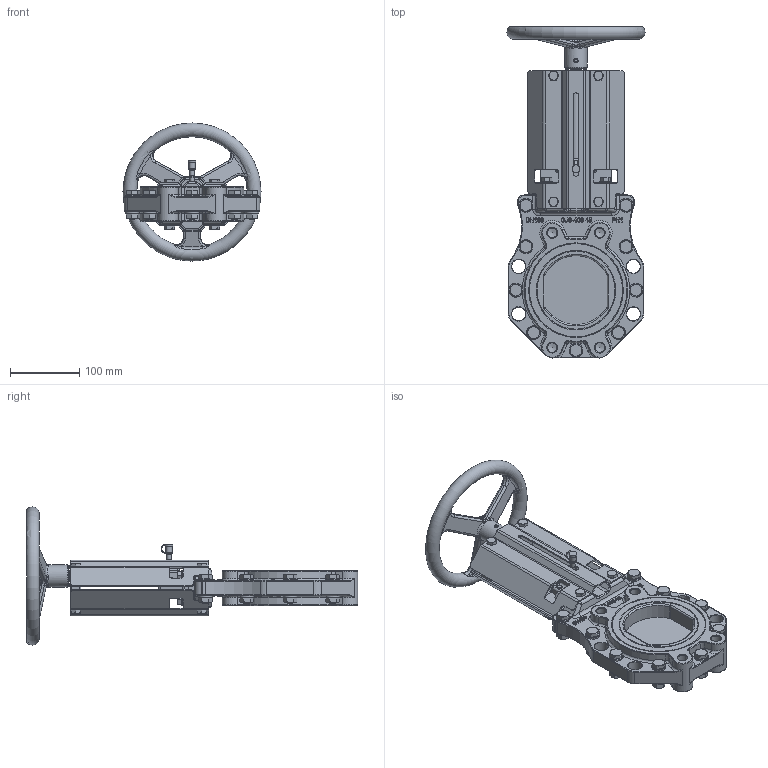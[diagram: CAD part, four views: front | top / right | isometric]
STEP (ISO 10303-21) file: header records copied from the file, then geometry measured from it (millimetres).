
FILE_DESCRIPTION(/* description */ (''),/* implementation_level */ '2;1');
FILE_NAME(/* name */ 'Non-rising stem knife gate valve with handwheel DN100.stp',/* time_stamp */ '2025-04-02T09:42:29+08:00',/* author */ (''),/* organization */ (''),/* preprocessor_version */ 'ST-DEVELOPER v15',/* originating_system */ 'SIEMENS PLM Software NX 10.0',/* authorisation */ '');
FILE_SCHEMA (('AP203_CONFIGURATION_CONTROLLED_3D_DESIGN_OF_MECHANICAL_PARTS_AND_ASSEMBLIES_MIM_LF { 1 0 10303 403 2 1 2}'));
Products named in the file (1): Admi271CEB492f0p
Bounding box: 200 x 480.65 x 200 mm (x, y, z)
Volume: 1833976 mm3; surface area: 396100.7 mm2
Topology: 1 solids, 21 shells, 2596 faces, 6431 edges, 4004 vertices
Faces by surface type: plane 1046, cylinder 562, bspline 354, extrusion 223, cone 210, torus 153, sphere 48
Full cylindrical faces by diameter (mm): 6 x1, 6.2 x1, 6.647 x4, 7.323 x2, 8 x6, 8.4 x6, 9 x1, 9.188 x9, 10 x18, 10.5 x18, 11.4 x10, 11.5 x1, 13.835 x8, 15.4 x9, 15.5 x1, 16 x8, 20 x23, 30 x3, 32 x1
Entity records: 82987 total; most frequent: CARTESIAN_POINT 26631, ORIENTED_EDGE 12114, DIRECTION 9931, EDGE_CURVE 6057, VERTEX_POINT 3921, AXIS2_PLACEMENT_3D 3520, EDGE_LOOP 3072, VECTOR 2891
